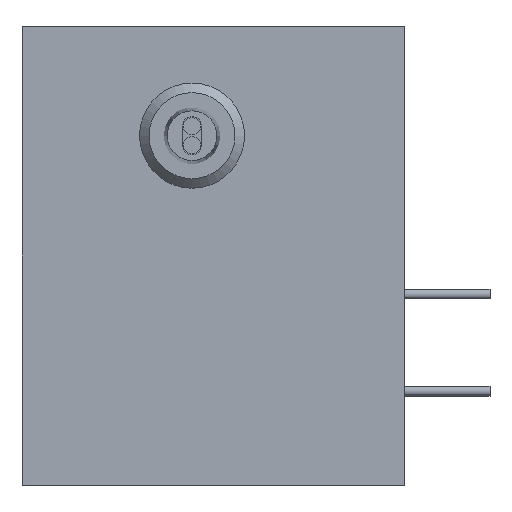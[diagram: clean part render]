
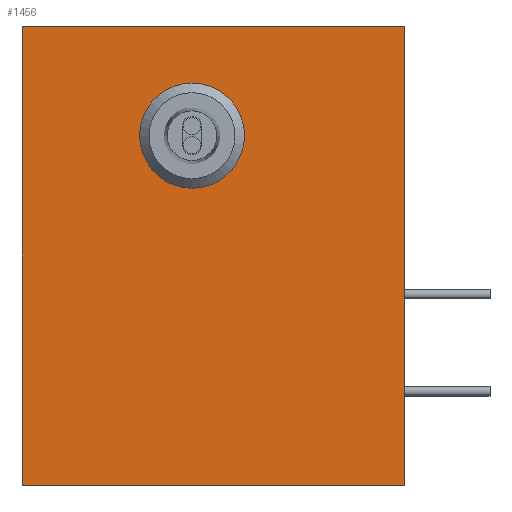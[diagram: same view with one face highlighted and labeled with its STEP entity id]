
A CAD part, left-side view. The second image highlights one B-rep face of the part: STEP entity #1456.
In plain terms, the highlighted planar face has unit normal (-1, 0, 0).
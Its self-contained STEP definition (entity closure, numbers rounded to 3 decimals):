
#109 = FACE_BOUND ( 'NONE', #519, .T. ) ;
#129 = CARTESIAN_POINT ( 'NONE',  ( 0., 11.1, -7.287 ) ) ;
#130 = VERTEX_POINT ( 'NONE', #144 ) ;
#144 = CARTESIAN_POINT ( 'NONE',  ( 0., 0., 0. ) ) ;
#187 = CARTESIAN_POINT ( 'NONE',  ( 0., 20., 0. ) ) ;
#291 = LINE ( 'NONE', #745, #717 ) ;
#302 = EDGE_CURVE ( 'NONE', #516, #130, #538, .T. ) ;
#368 = DIRECTION ( 'NONE',  ( 0., 0., 1. ) ) ;
#398 = VERTEX_POINT ( 'NONE', #1389 ) ;
#455 = EDGE_CURVE ( 'NONE', #2168, #130, #291, .T. ) ;
#510 = CARTESIAN_POINT ( 'NONE',  ( 0., 0., 0. ) ) ;
#516 = VERTEX_POINT ( 'NONE', #755 ) ;
#519 = EDGE_LOOP ( 'NONE', ( #620 ) ) ;
#538 = LINE ( 'NONE', #510, #1415 ) ;
#576 = VECTOR ( 'NONE', #656, 1000. ) ;
#620 = ORIENTED_EDGE ( 'NONE', *, *, #1399, .F. ) ;
#656 = DIRECTION ( 'NONE',  ( 0., -1., 0. ) ) ;
#717 = VECTOR ( 'NONE', #1623, 1000. ) ;
#745 = CARTESIAN_POINT ( 'NONE',  ( 0., 20., 0. ) ) ;
#755 = CARTESIAN_POINT ( 'NONE',  ( 0., 0., -24. ) ) ;
#798 = AXIS2_PLACEMENT_3D ( 'NONE', #1951, #1213, #1071 ) ;
#813 = LINE ( 'NONE', #187, #2165 ) ;
#876 = DIRECTION ( 'NONE',  ( -1., 0., 0. ) ) ;
#1028 = LINE ( 'NONE', #1829, #576 ) ;
#1039 = DIRECTION ( 'NONE',  ( 0., 0., 1. ) ) ;
#1064 = CIRCLE ( 'NONE', #1905, 1.588 ) ;
#1071 = DIRECTION ( 'NONE',  ( 0., 0., -1. ) ) ;
#1076 = EDGE_CURVE ( 'NONE', #398, #516, #1028, .T. ) ;
#1213 = DIRECTION ( 'NONE',  ( 1., 0., 0. ) ) ;
#1309 = EDGE_LOOP ( 'NONE', ( #1648, #1339, #2119, #1338 ) ) ;
#1331 = CARTESIAN_POINT ( 'NONE',  ( 0., 20., 0. ) ) ;
#1338 = ORIENTED_EDGE ( 'NONE', *, *, #1076, .T. ) ;
#1339 = ORIENTED_EDGE ( 'NONE', *, *, #455, .F. ) ;
#1389 = CARTESIAN_POINT ( 'NONE',  ( 0., 20., -24. ) ) ;
#1399 = EDGE_CURVE ( 'NONE', #1796, #1796, #1064, .T. ) ;
#1415 = VECTOR ( 'NONE', #1039, 1000. ) ;
#1424 = FACE_OUTER_BOUND ( 'NONE', #1309, .T. ) ;
#1456 = ADVANCED_FACE ( 'NONE', ( #109, #1424 ), #2111, .F. ) ;
#1623 = DIRECTION ( 'NONE',  ( 0., -1., 0. ) ) ;
#1648 = ORIENTED_EDGE ( 'NONE', *, *, #302, .T. ) ;
#1796 = VERTEX_POINT ( 'NONE', #129 ) ;
#1829 = CARTESIAN_POINT ( 'NONE',  ( 0., 20., -24. ) ) ;
#1905 = AXIS2_PLACEMENT_3D ( 'NONE', #1932, #876, #2093 ) ;
#1932 = CARTESIAN_POINT ( 'NONE',  ( 0., 11.1, -5.7 ) ) ;
#1951 = CARTESIAN_POINT ( 'NONE',  ( 0., 20., 0. ) ) ;
#2021 = EDGE_CURVE ( 'NONE', #398, #2168, #813, .T. ) ;
#2093 = DIRECTION ( 'NONE',  ( 0., 0., -1. ) ) ;
#2111 = PLANE ( 'NONE',  #798 ) ;
#2119 = ORIENTED_EDGE ( 'NONE', *, *, #2021, .F. ) ;
#2165 = VECTOR ( 'NONE', #368, 1000. ) ;
#2168 = VERTEX_POINT ( 'NONE', #1331 ) ;
